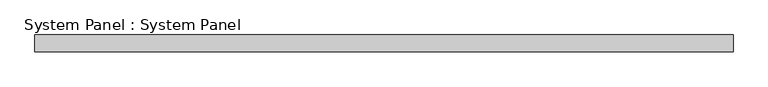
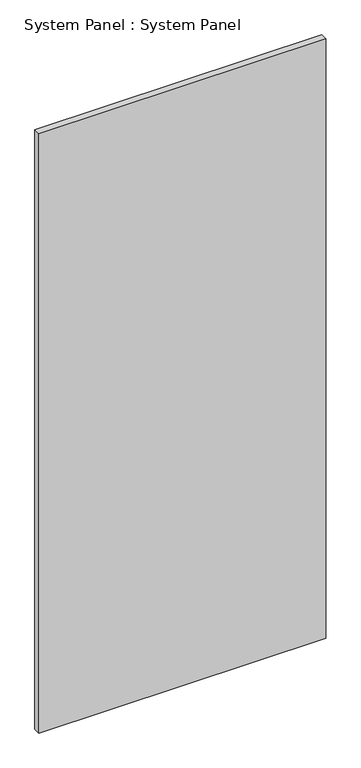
"""IFC4 building model written with IfcOpenShell, lengths in millimetres: plate geometry, System Panel : System Panel."""

from ifc_helpers import new_model, si_unit, origin, origin_with_axes, place, context, project, spatial, polyline, outline, extrude, source, transform, mapped, element, save


def system_panel_system_panel_f82bbedd(model_context):
    return source(origin(), model_context, "Body", "SweptSolid", [
        extrude(outline(polyline([(530.225, 19.05), (-530.225, 19.05), (-530.225, 44.45), (530.225, 44.45), (530.225, 19.05)])), origin_with_axes(), (0.0, 0.0, 1.0), 2343.15),
    ])


if __name__ == "__main__":
    model = new_model("IFC4")
    model_context = context("Model", 3, world=origin())
    ifc_project = project(units=[si_unit("LENGTHUNIT", "METRE", prefix="MILLI")], contexts=[model_context])
    site = spatial("IfcSite", under=ifc_project)
    building = spatial("IfcBuilding", under=site)
    placement = place(None, origin())
    system_panel_system_panel_shape = system_panel_system_panel_f82bbedd(model_context)
    element("IfcPlate", 1, ObjectType="System Panel : System Panel", at=placement, inside=building, context=model_context, shape_type="MappedRepresentation", body=[
        mapped(system_panel_system_panel_shape, transform((0.0, 0.0, 0.0), x_axis=(1.0, 0.0, 0.0), y_axis=(0.0, 1.0, 0.0), z_axis=(0.0, 0.0, 1.0))),
    ])
    save(model, "model.ifc")
